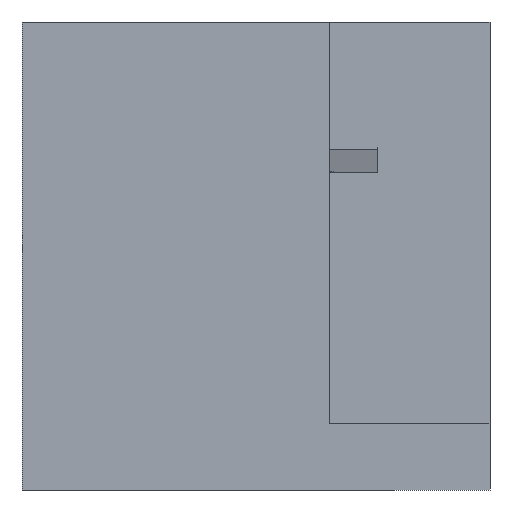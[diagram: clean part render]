
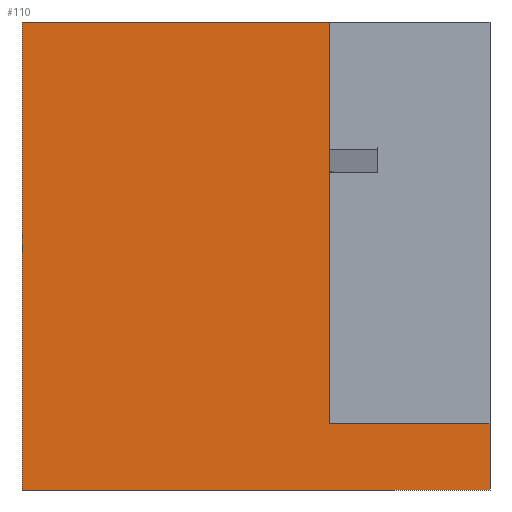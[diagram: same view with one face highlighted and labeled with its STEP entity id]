
A CAD part, left-side view. The second image highlights one B-rep face of the part: STEP entity #110.
In plain terms, the highlighted planar face has unit normal (-1, 0, 0).
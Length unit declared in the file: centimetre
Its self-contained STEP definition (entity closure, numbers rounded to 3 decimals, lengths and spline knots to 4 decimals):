
#24 = VECTOR ( 'NONE', #798, 100. ) ;
#30 = CARTESIAN_POINT ( 'NONE',  ( 0., 1000., 1000. ) ) ;
#40 = VECTOR ( 'NONE', #516, 100. ) ;
#65 = PLANE ( 'NONE',  #100 ) ;
#100 = AXIS2_PLACEMENT_3D ( 'NONE', #312, #148, #592 ) ;
#104 = CARTESIAN_POINT ( 'NONE',  ( 0., 1000., 0. ) ) ;
#110 = ADVANCED_FACE ( 'NONE', ( #134 ), #65, .F. ) ;
#119 = DIRECTION ( 'NONE',  ( 0., -1., 0. ) ) ;
#134 = FACE_OUTER_BOUND ( 'NONE', #362, .T. ) ;
#148 = DIRECTION ( 'NONE',  ( 1., 0., 0. ) ) ;
#156 = VECTOR ( 'NONE', #119, 100. ) ;
#191 = VECTOR ( 'NONE', #640, 100. ) ;
#211 = CARTESIAN_POINT ( 'NONE',  ( 0., 343.9385, 141.9189 ) ) ;
#212 = CARTESIAN_POINT ( 'NONE',  ( 0., 1000., 1000. ) ) ;
#224 = VECTOR ( 'NONE', #848, 100. ) ;
#303 = VERTEX_POINT ( 'NONE', #345 ) ;
#312 = CARTESIAN_POINT ( 'NONE',  ( 0., 1000., 1000. ) ) ;
#318 = CARTESIAN_POINT ( 'NONE',  ( 0., 343.9385, 1000. ) ) ;
#325 = EDGE_CURVE ( 'NONE', #559, #303, #660, .T. ) ;
#345 = CARTESIAN_POINT ( 'NONE',  ( 0., 1000., 0. ) ) ;
#362 = EDGE_LOOP ( 'NONE', ( #856, #387, #849, #845, #439, #669 ) ) ;
#373 = LINE ( 'NONE', #524, #976 ) ;
#387 = ORIENTED_EDGE ( 'NONE', *, *, #866, .T. ) ;
#393 = CARTESIAN_POINT ( 'NONE',  ( 0., 1000., 1000. ) ) ;
#415 = LINE ( 'NONE', #30, #224 ) ;
#439 = ORIENTED_EDGE ( 'NONE', *, *, #684, .T. ) ;
#442 = CARTESIAN_POINT ( 'NONE',  ( 0., 0., 141.9189 ) ) ;
#461 = CARTESIAN_POINT ( 'NONE',  ( 0., 0., 0. ) ) ;
#516 = DIRECTION ( 'NONE',  ( 0., 0., -1. ) ) ;
#524 = CARTESIAN_POINT ( 'NONE',  ( 0., 0., 1000. ) ) ;
#550 = VERTEX_POINT ( 'NONE', #461 ) ;
#559 = VERTEX_POINT ( 'NONE', #393 ) ;
#589 = VERTEX_POINT ( 'NONE', #318 ) ;
#592 = DIRECTION ( 'NONE',  ( 0., 0., -1. ) ) ;
#640 = DIRECTION ( 'NONE',  ( 0., -1., 0. ) ) ;
#660 = LINE ( 'NONE', #212, #40 ) ;
#669 = ORIENTED_EDGE ( 'NONE', *, *, #779, .F. ) ;
#684 = EDGE_CURVE ( 'NONE', #303, #550, #851, .T. ) ;
#699 = EDGE_CURVE ( 'NONE', #559, #589, #415, .T. ) ;
#717 = VERTEX_POINT ( 'NONE', #858 ) ;
#741 = LINE ( 'NONE', #211, #24 ) ;
#779 = EDGE_CURVE ( 'NONE', #717, #550, #373, .T. ) ;
#798 = DIRECTION ( 'NONE',  ( 0., 0., 1. ) ) ;
#810 = LINE ( 'NONE', #442, #156 ) ;
#845 = ORIENTED_EDGE ( 'NONE', *, *, #325, .T. ) ;
#848 = DIRECTION ( 'NONE',  ( 0., -1., 0. ) ) ;
#849 = ORIENTED_EDGE ( 'NONE', *, *, #699, .F. ) ;
#851 = LINE ( 'NONE', #104, #191 ) ;
#856 = ORIENTED_EDGE ( 'NONE', *, *, #870, .F. ) ;
#858 = CARTESIAN_POINT ( 'NONE',  ( 0., 0., 141.9189 ) ) ;
#866 = EDGE_CURVE ( 'NONE', #940, #589, #741, .T. ) ;
#870 = EDGE_CURVE ( 'NONE', #940, #717, #810, .T. ) ;
#881 = DIRECTION ( 'NONE',  ( 0., 0., -1. ) ) ;
#911 = CARTESIAN_POINT ( 'NONE',  ( 0., 343.9385, 141.9189 ) ) ;
#940 = VERTEX_POINT ( 'NONE', #911 ) ;
#976 = VECTOR ( 'NONE', #881, 100. ) ;
